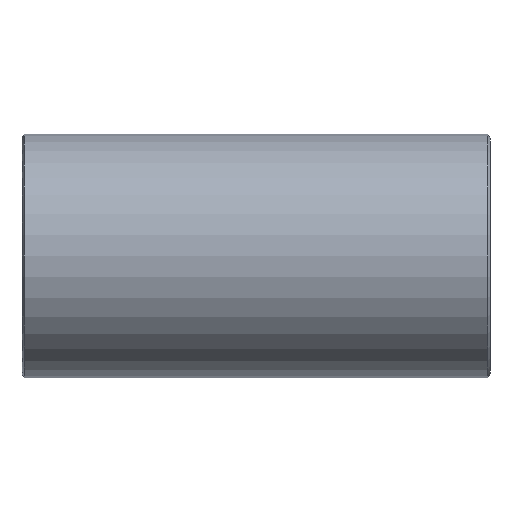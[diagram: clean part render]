
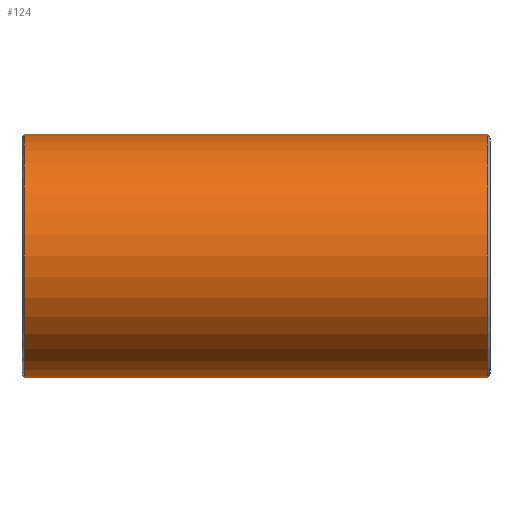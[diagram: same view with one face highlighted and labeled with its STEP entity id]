
A CAD part, front view. The second image highlights one B-rep face of the part: STEP entity #124.
In plain terms, the highlighted cylindrical face has radius 44.55 mm (diameter 89.1 mm), a partial arc.
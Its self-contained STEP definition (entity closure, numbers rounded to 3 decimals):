
#20 = DIRECTION ( 'NONE',  ( -1., 0., 0. ) ) ;
#24 = VERTEX_POINT ( 'NONE', #111 ) ;
#90 = CARTESIAN_POINT ( 'NONE',  ( 85.7, 0., 44.55 ) ) ;
#111 = CARTESIAN_POINT ( 'NONE',  ( 84.808, 0., 44.55 ) ) ;
#113 = EDGE_LOOP ( 'NONE', ( #1154, #1228, #1042, #917, #626, #753 ) ) ;
#121 = CARTESIAN_POINT ( 'NONE',  ( 85.7, 0., 44.55 ) ) ;
#124 = ADVANCED_FACE ( 'NONE', ( #523 ), #824, .T. ) ;
#179 = VECTOR ( 'NONE', #20, 1000. ) ;
#191 = DIRECTION ( 'NONE',  ( -1., 0., 0. ) ) ;
#318 = DIRECTION ( 'NONE',  ( 0., 0., 1. ) ) ;
#335 = LINE ( 'NONE', #121, #179 ) ;
#339 = CARTESIAN_POINT ( 'NONE',  ( 0., 0., -44.55 ) ) ;
#381 = DIRECTION ( 'NONE',  ( -1., 0., 0. ) ) ;
#471 = AXIS2_PLACEMENT_3D ( 'NONE', #691, #381, #701 ) ;
#482 = AXIS2_PLACEMENT_3D ( 'NONE', #832, #1241, #318 ) ;
#487 = AXIS2_PLACEMENT_3D ( 'NONE', #693, #191, #1184 ) ;
#523 = FACE_OUTER_BOUND ( 'NONE', #113, .T. ) ;
#605 = CARTESIAN_POINT ( 'NONE',  ( -84.808, 0., 44.55 ) ) ;
#608 = EDGE_CURVE ( 'NONE', #24, #1015, #335, .T. ) ;
#623 = LINE ( 'NONE', #1210, #1104 ) ;
#626 = ORIENTED_EDGE ( 'NONE', *, *, #1135, .F. ) ;
#684 = LINE ( 'NONE', #90, #843 ) ;
#691 = CARTESIAN_POINT ( 'NONE',  ( -84.808, 0., 0. ) ) ;
#693 = CARTESIAN_POINT ( 'NONE',  ( 84.808, 0., 0. ) ) ;
#694 = DIRECTION ( 'NONE',  ( -1., 0., 0. ) ) ;
#696 = VECTOR ( 'NONE', #1240, 1000. ) ;
#701 = DIRECTION ( 'NONE',  ( 0., 0., 1. ) ) ;
#753 = ORIENTED_EDGE ( 'NONE', *, *, #1259, .F. ) ;
#824 = CYLINDRICAL_SURFACE ( 'NONE', #482, 44.55 ) ;
#832 = CARTESIAN_POINT ( 'NONE',  ( 85.7, 0., 0. ) ) ;
#841 = CARTESIAN_POINT ( 'NONE',  ( 0., 0., 44.55 ) ) ;
#843 = VECTOR ( 'NONE', #694, 1000. ) ;
#856 = VERTEX_POINT ( 'NONE', #1061 ) ;
#907 = CARTESIAN_POINT ( 'NONE',  ( 84.808, 0., -44.55 ) ) ;
#917 = ORIENTED_EDGE ( 'NONE', *, *, #923, .T. ) ;
#923 = EDGE_CURVE ( 'NONE', #1015, #1024, #684, .T. ) ;
#1005 = DIRECTION ( 'NONE',  ( -1., 0., 0. ) ) ;
#1015 = VERTEX_POINT ( 'NONE', #841 ) ;
#1018 = EDGE_CURVE ( 'NONE', #1030, #1252, #1132, .T. ) ;
#1024 = VERTEX_POINT ( 'NONE', #605 ) ;
#1030 = VERTEX_POINT ( 'NONE', #907 ) ;
#1042 = ORIENTED_EDGE ( 'NONE', *, *, #608, .T. ) ;
#1061 = CARTESIAN_POINT ( 'NONE',  ( -84.808, 0., -44.55 ) ) ;
#1076 = EDGE_CURVE ( 'NONE', #1030, #24, #1299, .T. ) ;
#1104 = VECTOR ( 'NONE', #1005, 1000. ) ;
#1121 = CARTESIAN_POINT ( 'NONE',  ( 85.7, 0., -44.55 ) ) ;
#1132 = LINE ( 'NONE', #1121, #696 ) ;
#1135 = EDGE_CURVE ( 'NONE', #856, #1024, #1180, .T. ) ;
#1154 = ORIENTED_EDGE ( 'NONE', *, *, #1018, .F. ) ;
#1180 = CIRCLE ( 'NONE', #471, 44.55 ) ;
#1184 = DIRECTION ( 'NONE',  ( 0., 0., 1. ) ) ;
#1210 = CARTESIAN_POINT ( 'NONE',  ( 85.7, 0., -44.55 ) ) ;
#1228 = ORIENTED_EDGE ( 'NONE', *, *, #1076, .T. ) ;
#1240 = DIRECTION ( 'NONE',  ( -1., 0., 0. ) ) ;
#1241 = DIRECTION ( 'NONE',  ( -1., 0., 0. ) ) ;
#1252 = VERTEX_POINT ( 'NONE', #339 ) ;
#1259 = EDGE_CURVE ( 'NONE', #1252, #856, #623, .T. ) ;
#1299 = CIRCLE ( 'NONE', #487, 44.55 ) ;
